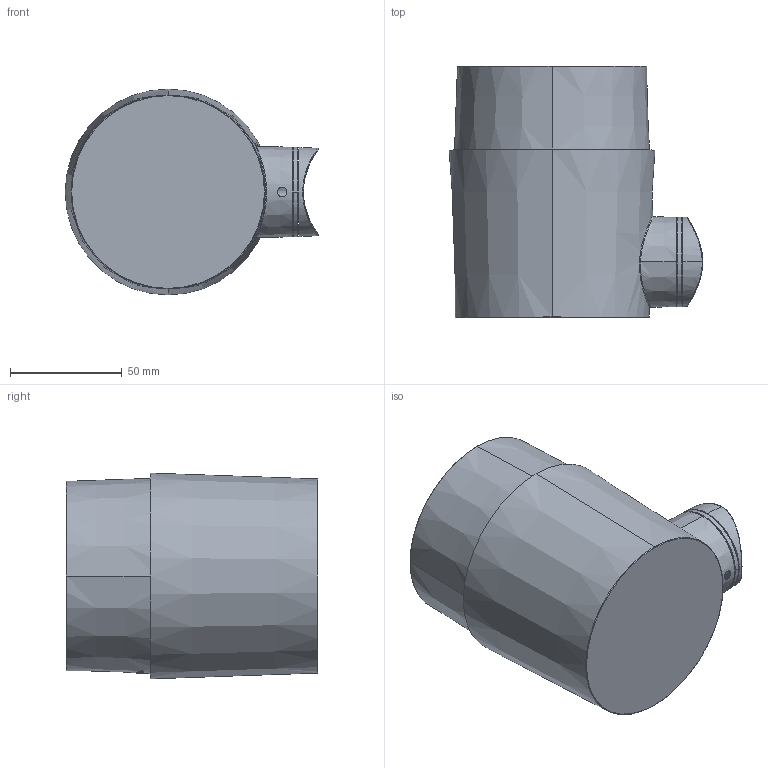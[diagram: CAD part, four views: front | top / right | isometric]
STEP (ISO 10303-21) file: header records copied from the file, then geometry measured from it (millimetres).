
FILE_DESCRIPTION((''),'2;1');
FILE_NAME('CLIC-POST-ALLUMINIO_SW0003','2025-07-30T12:00:48',('Piccioli'),(''),'CREO PARAMETRIC BY PTC INC, 2025010','CREO PARAMETRIC BY PTC INC, 2025010','');
FILE_SCHEMA(('CONFIG_CONTROL_DESIGN'));
Length unit declared in the file: millimetre
Products named in the file (1): CLIC-POST-ALLUMINIO_SW0003
Bounding box: 113.38 x 112.49 x 92 mm (x, y, z)
Surface area: 84005.8 mm2 (no closed solid volume)
Topology: 0 solids, 28 shells, 100 faces, 451 edges, 378 vertices
Faces by surface type: cone 54, plane 26, torus 9, cylinder 7, bspline 4
Entity records: 8831 total; most frequent: CARTESIAN_POINT 5584, ORIENTED_EDGE 596, DIRECTION 552, EDGE_CURVE 451, VERTEX_POINT 378, AXIS2_PLACEMENT_3D 248, B_SPLINE_CURVE_WITH_KNOTS 243, CIRCLE 152
